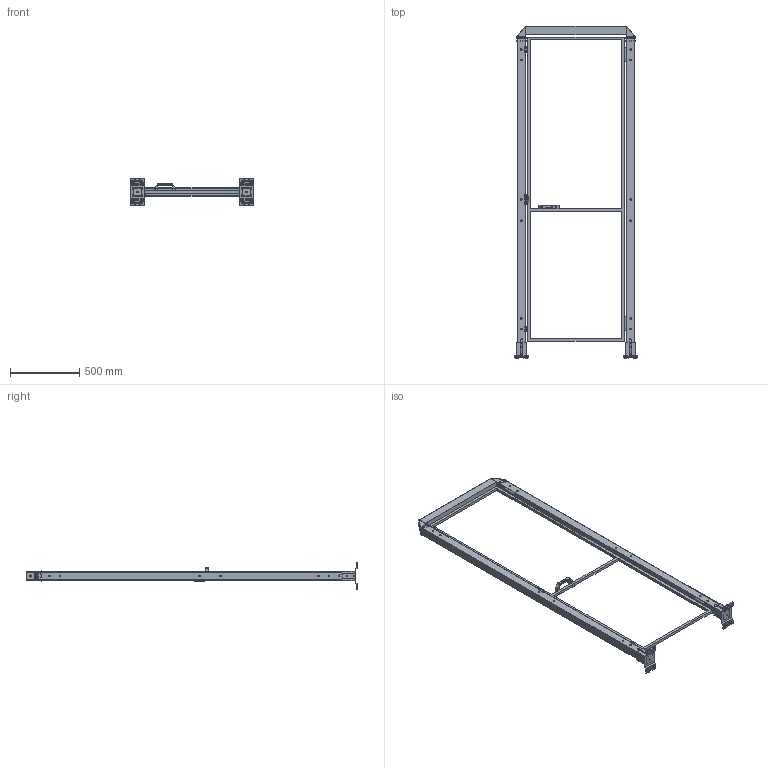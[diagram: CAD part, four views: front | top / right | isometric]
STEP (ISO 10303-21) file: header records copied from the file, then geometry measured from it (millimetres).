
FILE_DESCRIPTION(('STEP AP242'),'1');
FILE_NAME('vfda_bscncr2_07002320.stp','2025-01-31T11:13:32',('TraceParts'),('TraceParts S.A.'),'Spatial InterOp 3D',' ',' ');
FILE_SCHEMA(('AP242_MANAGED_MODEL_BASED_3D_ENGINEERING_MIM_LF {1 0 10303 442 1 1 4}'));
Length unit declared in the file: millimetre
Products named in the file (1): vfda_bscncr2_07002320_1
Bounding box: 890 x 2401 x 192 mm (x, y, z)
Volume: 4996852.4 mm3; surface area: 3328860 mm2
Topology: 12 solids, 12 shells, 1942 faces, 5208 edges, 3340 vertices
Faces by surface type: plane 950, cylinder 652, bspline 236, cone 60, torus 40, sphere 4
Entity records: 78408 total; most frequent: CARTESIAN_POINT 14215, ORIENTED_EDGE 10408, DIRECTION 9578, EDGE_CURVE 5204, VERTEX_POINT 3340, LINE 3216, VECTOR 3216, AXIS2_PLACEMENT_3D 3181
